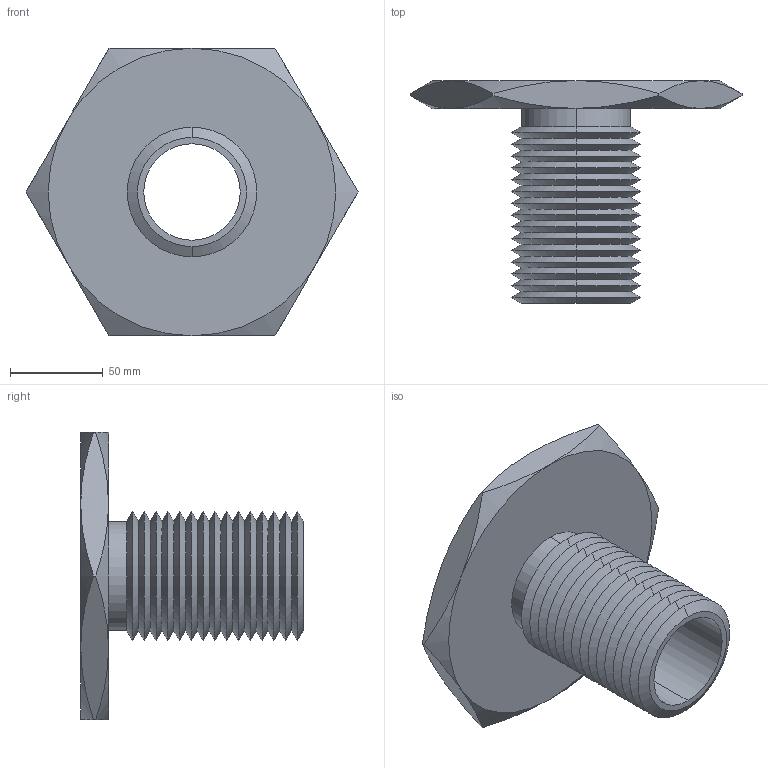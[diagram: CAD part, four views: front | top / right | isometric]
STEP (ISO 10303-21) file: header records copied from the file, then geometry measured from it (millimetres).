
FILE_DESCRIPTION (( 'STEP AP203' ), '1' );
FILE_NAME ('63302.W5275_M52x5.step', '2013-12-08T11:54:30', ( 'User' ), ( '' ), 'SwSTEP 2.0', 'SolidWorks 2009', '' );
FILE_SCHEMA (( 'CONFIG_CONTROL_DESIGN' ));
Length unit declared in the file: millimetre
Products named in the file (1): 63302.W5275_M52x5
Bounding box: 178.98 x 120 x 155 mm (x, y, z)
Volume: 384053.7 mm3; surface area: 102941.2 mm2
Topology: 1 solids, 1 shells, 87 faces, 178 edges, 94 vertices
Faces by surface type: cone 74, plane 9, cylinder 4
Entity records: 2479 total; most frequent: CARTESIAN_POINT 584, DIRECTION 412, ORIENTED_EDGE 356, EDGE_CURVE 178, AXIS2_PLACEMENT_3D 170, VERTEX_POINT 94, EDGE_LOOP 90, ADVANCED_FACE 87
